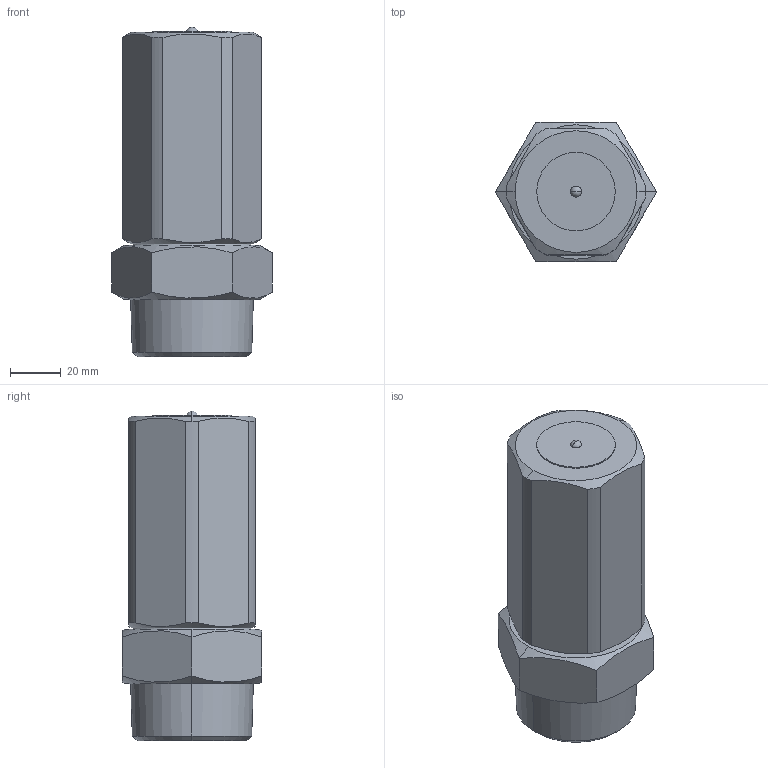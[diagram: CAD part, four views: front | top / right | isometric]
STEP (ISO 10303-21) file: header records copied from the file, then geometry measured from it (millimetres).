
FILE_DESCRIPTION( (''), '2;1');
FILE_NAME ('PC1276.2240.VB-7 40A_11546.stp','2025-12-15T15:28:13',(''),(''),'spGate 20.6.3 (****-****-****-****)','','');
FILE_SCHEMA (('AUTOMOTIVE_DESIGN'));
Length unit declared in the file: millimetre
Bounding box: 63.51 x 55 x 130 mm (x, y, z)
Volume: 275603.5 mm3; surface area: 26846.6 mm2
Topology: 1 solids, 1 shells, 42 faces, 102 edges, 65 vertices
Faces by surface type: plane 18, bspline 14, cylinder 8, sphere 2
Entity records: 2461 total; most frequent: CARTESIAN_POINT 781, ORIENTED_EDGE 200, DIRECTION 150, COLOUR_RGB 143, PRESENTATION_STYLE_ASSIGNMENT 143, STYLED_ITEM 143, EDGE_CURVE 100, DRAUGHTING_PRE_DEFINED_CURVE_FONT 100
